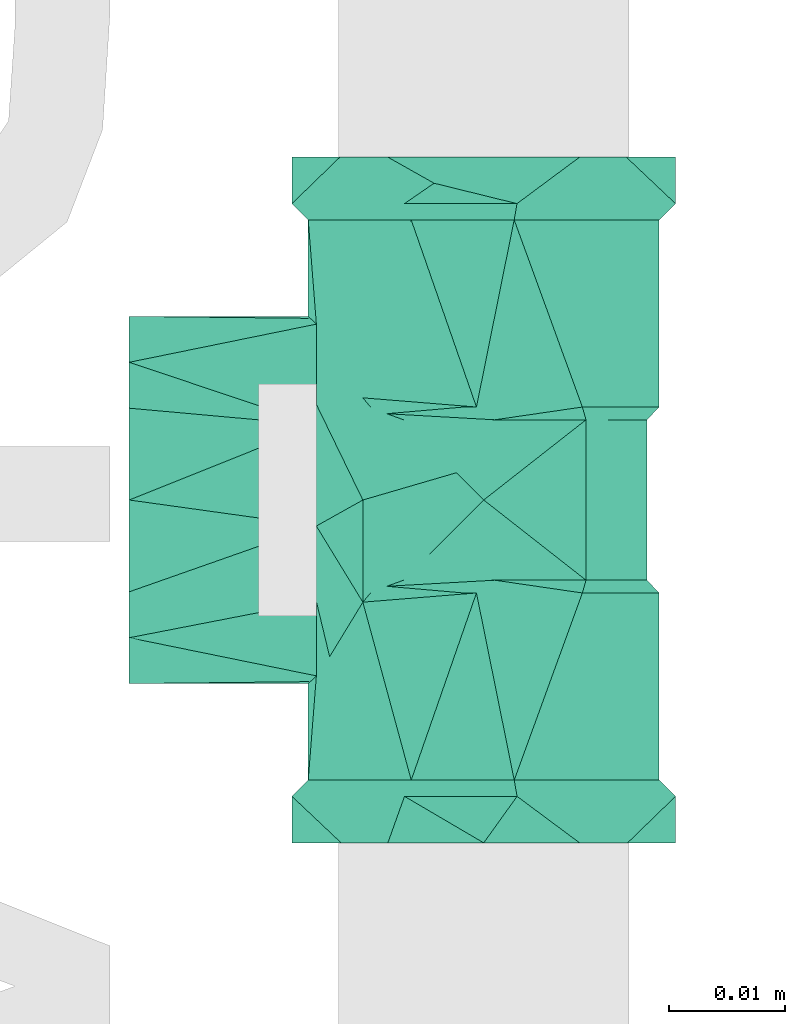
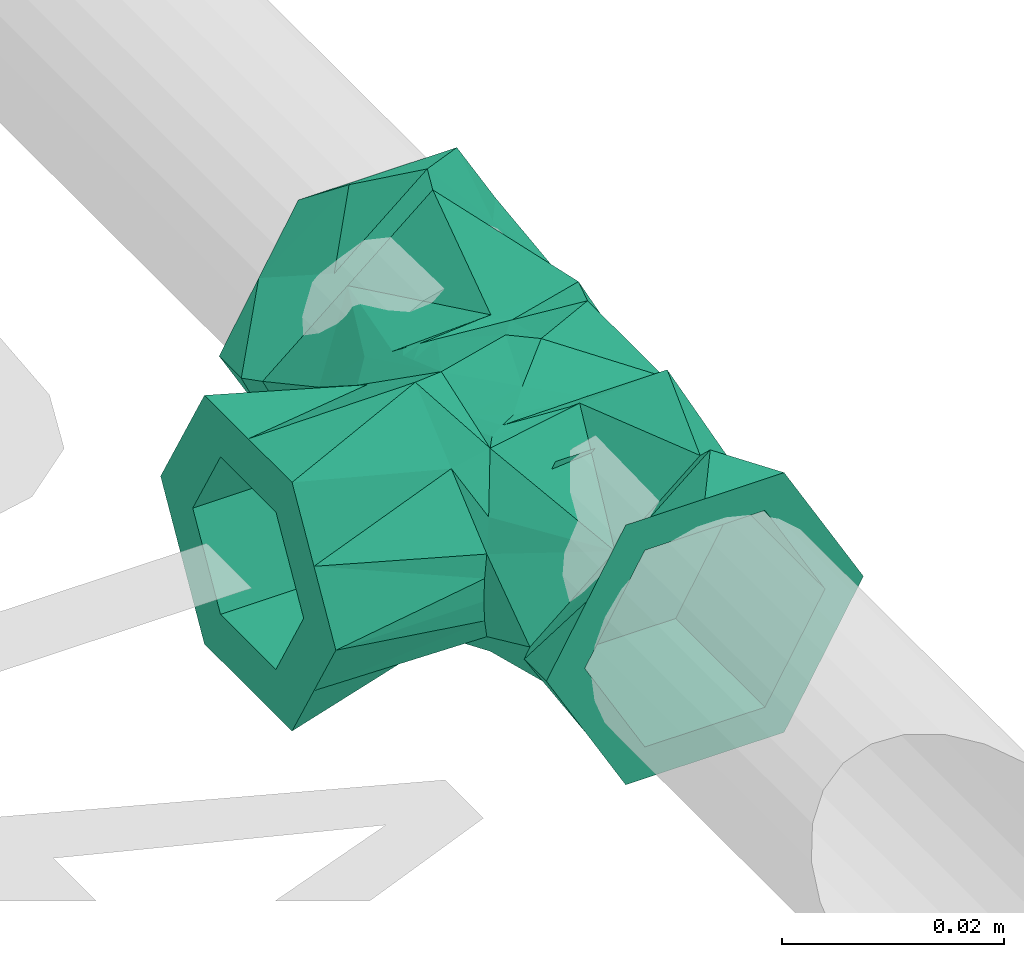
# One storey, part 331 of 589: 1 flow fitting.
"""IFC2X3 building model written with IfcOpenShell, lengths in millimetres."""

from ifc_helpers import new_model, entity, si_unit, converted_unit, derived_unit, direction, frame, origin, place, context, subcontext, project, spatial, faceted_brep, source, transform, mapped, material, type_object, type_shapes, element, save


model = new_model("IFC2X3")

# Units and contexts
model_context = context("Model", 3, precision=0.01, world=origin(), true_north=direction((6.123031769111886e-17, 1.0)))
body_context = subcontext(model_context, "Body", "Model", "MODEL_VIEW")
ifc_project = project(units=[si_unit("LENGTHUNIT", "METRE", prefix="MILLI"), si_unit("AREAUNIT", "SQUARE_METRE"), si_unit("VOLUMEUNIT", "CUBIC_METRE"), converted_unit("PLANEANGLEUNIT", "DEGREE", entity("IfcRatioMeasure", 0.017453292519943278), si_unit("PLANEANGLEUNIT", "RADIAN"), dimensions=[0, 0, 0, 0, 0, 0, 0]), si_unit("MASSUNIT", "GRAM", prefix="KILO"), derived_unit("MASSDENSITYUNIT", [(si_unit("MASSUNIT", "GRAM", prefix="KILO"), 1), (si_unit("LENGTHUNIT", "METRE"), -3)]), derived_unit("IONCONCENTRATIONUNIT", [(si_unit("MASSUNIT", "GRAM", prefix="KILO"), 1), (si_unit("LENGTHUNIT", "METRE"), -3)]), derived_unit("MOMENTOFINERTIAUNIT", [(si_unit("LENGTHUNIT", "METRE"), 4)]), si_unit("TIMEUNIT", "SECOND"), si_unit("FREQUENCYUNIT", "HERTZ"), si_unit("THERMODYNAMICTEMPERATUREUNIT", "DEGREE_CELSIUS"), derived_unit("THERMALTRANSMITTANCEUNIT", [(si_unit("MASSUNIT", "GRAM", prefix="KILO"), 1), (si_unit("THERMODYNAMICTEMPERATUREUNIT", "KELVIN"), -1), (si_unit("TIMEUNIT", "SECOND"), -3)]), derived_unit("THERMALCONDUCTANCEUNIT", [(si_unit("MASSUNIT", "GRAM", prefix="KILO"), 1), (si_unit("THERMODYNAMICTEMPERATUREUNIT", "KELVIN"), -1), (si_unit("TIMEUNIT", "SECOND"), -3), (si_unit("LENGTHUNIT", "METRE"), 1)]), derived_unit("VOLUMETRICFLOWRATEUNIT", [(si_unit("LENGTHUNIT", "METRE"), 3), (si_unit("TIMEUNIT", "SECOND"), -1)]), derived_unit("MASSFLOWRATEUNIT", [(si_unit("MASSUNIT", "GRAM", prefix="KILO"), 1), (si_unit("TIMEUNIT", "SECOND"), -1)]), derived_unit("ROTATIONALFREQUENCYUNIT", [(si_unit("TIMEUNIT", "SECOND"), -1)]), si_unit("ELECTRICCURRENTUNIT", "AMPERE"), si_unit("ELECTRICVOLTAGEUNIT", "VOLT"), si_unit("POWERUNIT", "WATT"), si_unit("FORCEUNIT", "NEWTON", prefix="KILO"), si_unit("ILLUMINANCEUNIT", "LUX"), si_unit("LUMINOUSFLUXUNIT", "LUMEN"), si_unit("LUMINOUSINTENSITYUNIT", "CANDELA"), derived_unit("USERDEFINED", [(si_unit("MASSUNIT", "GRAM", prefix="KILO"), -1), (si_unit("LENGTHUNIT", "METRE"), -2), (si_unit("TIMEUNIT", "SECOND"), 3), (si_unit("LUMINOUSFLUXUNIT", "LUMEN"), 1)]), derived_unit("USERDEFINED", [(si_unit("MASSUNIT", "GRAM", prefix="KILO"), 1), (si_unit("TIMEUNIT", "SECOND"), -3), (si_unit("LENGTHUNIT", "METRE"), 3), (si_unit("ELECTRICCURRENTUNIT", "AMPERE"), -2)]), derived_unit("SOUNDPOWERUNIT", [(si_unit("MASSUNIT", "GRAM", prefix="KILO"), 1), (si_unit("TIMEUNIT", "SECOND"), -3), (si_unit("LENGTHUNIT", "METRE"), 2)]), derived_unit("SOUNDPRESSUREUNIT", [(si_unit("MASSUNIT", "GRAM", prefix="KILO"), 1), (si_unit("LENGTHUNIT", "METRE"), -1), (si_unit("TIMEUNIT", "SECOND"), -2)]), derived_unit("LINEARVELOCITYUNIT", [(si_unit("LENGTHUNIT", "METRE"), 1), (si_unit("TIMEUNIT", "SECOND"), -1)]), si_unit("PRESSUREUNIT", "PASCAL"), derived_unit("USERDEFINED", [(si_unit("MASSUNIT", "GRAM", prefix="KILO"), 1), (si_unit("LENGTHUNIT", "METRE"), -2), (si_unit("TIMEUNIT", "SECOND"), -2)]), derived_unit("LINEARFORCEUNIT", [(si_unit("MASSUNIT", "GRAM", prefix="KILO"), 1), (si_unit("TIMEUNIT", "SECOND"), -2)]), derived_unit("PLANARFORCEUNIT", [(si_unit("MASSUNIT", "GRAM", prefix="KILO"), 1), (si_unit("LENGTHUNIT", "METRE"), -1), (si_unit("TIMEUNIT", "SECOND"), -2)]), derived_unit("SPECIFICHEATCAPACITYUNIT", [(si_unit("THERMODYNAMICTEMPERATUREUNIT", "KELVIN"), -1), (si_unit("LENGTHUNIT", "METRE"), 2), (si_unit("TIMEUNIT", "SECOND"), -2)]), derived_unit("HEATINGVALUEUNIT", [(si_unit("LENGTHUNIT", "METRE"), 2), (si_unit("TIMEUNIT", "SECOND"), -2)]), derived_unit("VAPORPERMEABILITYUNIT", [(si_unit("LENGTHUNIT", "METRE"), -1), (si_unit("TIMEUNIT", "SECOND"), 1)]), derived_unit("DYNAMICVISCOSITYUNIT", [(si_unit("MASSUNIT", "GRAM", prefix="KILO"), 1), (si_unit("TIMEUNIT", "SECOND"), -1), (si_unit("LENGTHUNIT", "METRE"), -1)]), derived_unit("THERMALEXPANSIONCOEFFICIENTUNIT", [(si_unit("THERMODYNAMICTEMPERATUREUNIT", "KELVIN"), -1)]), derived_unit("MODULUSOFELASTICITYUNIT", [(si_unit("MASSUNIT", "GRAM", prefix="KILO"), 1), (si_unit("LENGTHUNIT", "METRE"), -1), (si_unit("TIMEUNIT", "SECOND"), -2)]), derived_unit("ISOTHERMALMOISTURECAPACITYUNIT", [(si_unit("LENGTHUNIT", "METRE"), 3), (si_unit("MASSUNIT", "GRAM", prefix="KILO"), -1)]), derived_unit("MOISTUREDIFFUSIVITYUNIT", [(si_unit("TIMEUNIT", "SECOND"), -1), (si_unit("LENGTHUNIT", "METRE"), 2)])], contexts=[model_context])

# Site, building, storey
site_placement = place(None, origin())
site = spatial("IfcSite", under=ifc_project, at=site_placement, Name="Default", CompositionType="ELEMENT")
building_placement = place(site_placement, origin())
building = spatial("IfcBuilding", under=site, at=building_placement, CompositionType="ELEMENT")
storey_placement = place(building_placement, frame((0.0, 0.0, 100.0)))
storey = spatial("IfcBuildingStorey", under=building, at=storey_placement, Name="TÉRREO", CompositionType="ELEMENT", Elevation=100.0)

# Flow fitting
ifc_material = material(Name="PVC Azul")
pipe_fitting_type = type_object("IfcPipeFittingType", Name="PVC Marrom Soldável_Tê 90° Azul com Bucha de Latão_Rodrigo MEP:Tê_20x1/2''_ 25x1/2''_ 25x3/4''_ 32x3/4''", PredefinedType="NOTDEFINED", material=ifc_material)
shared_shape = source(origin(), body_context, "Body", "Brep", [
    faceted_brep([(-29.500000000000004, -8.250000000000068, -14.28941916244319), (-29.500000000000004, -12.5, 0.0), (-29.500000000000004, -6.250000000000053, -10.825317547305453), (-29.500000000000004, -12.26746212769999, -7.3309706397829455), (-29.500000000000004, 6.249999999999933, -10.825317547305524), (-29.500000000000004, 0.0, -14.289419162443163), (-29.500000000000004, -16.500000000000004, 0.0), (-29.500000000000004, -6.2500000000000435, 10.825317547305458), (-29.500000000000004, -12.375000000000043, 7.144709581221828), (-29.500000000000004, -8.25000000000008, 14.289419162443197), (-29.500000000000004, 6.249999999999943, 10.825317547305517), (-29.500000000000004, 0.0, 14.28941916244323), (-29.500000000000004, 8.249999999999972, 14.289419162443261), (-29.500000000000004, 12.26746212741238, 7.330970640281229), (-29.500000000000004, 16.499999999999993, 0.0), (-29.500000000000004, 12.5, 0.0), (-29.500000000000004, 12.37500000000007, -7.144709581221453), (-29.500000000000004, 8.250000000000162, -14.289419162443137), (-25.499999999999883, 9.6816916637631, 8.124823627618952), (-25.499999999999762, 2.8633833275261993, 16.249647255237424), (-27.25626714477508, -4.271846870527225, 15.937418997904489), (-25.500000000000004, 16.500000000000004, 0.0), (25.499999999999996, 16.500000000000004, 0.0), (29.500000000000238, 12.374999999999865, 7.1447095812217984), (29.500000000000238, 16.500000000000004, 0.0), (-25.500000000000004, -16.500000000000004, 0.0), (25.500000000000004, -16.500000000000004, 0.0), (29.500000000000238, -16.499999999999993, 0.0), (29.500000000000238, -12.267462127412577, 7.330970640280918), (-25.49999999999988, -6.818308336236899, 8.124823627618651), (-25.49999999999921, -9.683729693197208, -8.12446423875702), (-25.499999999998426, -2.8674593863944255, -16.248928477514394), (-27.256354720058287, 4.268848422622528, -15.938222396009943), (29.500000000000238, -12.375000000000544, -7.144709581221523), (29.500000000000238, 12.26746212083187, -7.3309706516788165), (-25.49999999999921, 6.8162703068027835, -8.12446423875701), (-24.100000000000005, -15.1, 0.0), (-24.100000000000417, -6.239785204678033, 7.435444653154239), (-24.100000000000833, 2.620429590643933, 14.870889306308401), (-24.099999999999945, 8.860214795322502, 7.435444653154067), (-24.10000000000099, 10.193333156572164, 5.8468759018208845), (-24.10000000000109, 15.099999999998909, 0.0), (-24.09999999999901, 6.237920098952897, -7.4351157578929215), (-24.09999999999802, -2.624159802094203, -14.870231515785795), (-24.09999999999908, -8.862079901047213, -7.435115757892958), (-24.099999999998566, -10.19391845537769, -5.847667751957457), (-8.0, 8.488967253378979, 12.487891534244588), (-8.0, 11.79448362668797, 6.243945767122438), (-8.0, 15.099999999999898, 0.0), (-11.32196313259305, -11.85902780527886, 9.347377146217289), (-8.790426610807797, -10.399999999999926, 10.947602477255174), (-8.0, -0.6260502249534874, 12.012862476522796), (-15.628969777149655, -14.92094823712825, 2.31847012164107), (-15.799999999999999, -15.100000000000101, 0.0), (-15.132415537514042, -14.399999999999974, 4.544227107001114), (-8.399674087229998, -10.07188784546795, 11.250203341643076), (-8.0, -9.741067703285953, 11.537833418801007), (-8.0, -1.712474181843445, 11.956243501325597), (-15.628969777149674, -14.920948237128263, -2.318470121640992), (-15.132415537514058, -14.4, -4.544227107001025), (-8.0, 4.06303120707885, -14.543100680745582), (-8.0, 9.581515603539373, -7.271550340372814), (-13.483951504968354, -13.258957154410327, -7.225652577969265), (-8.790426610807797, -10.4, -10.947602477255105), (-8.0, -9.741067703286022, -11.537833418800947), (-8.399674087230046, -10.071887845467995, -11.250203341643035), (-8.0, -1.6348361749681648, -13.302627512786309), (8.0, 9.581515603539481, -7.271550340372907), (8.0, 15.1, 0.0), (24.100000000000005, 15.1, 0.0), (-6.8999999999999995, 14.039999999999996, 0.0), (-6.899999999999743, 9.79884528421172, -6.259417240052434), (-6.899999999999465, 5.204835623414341, -13.039604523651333), (-7.423714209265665, -8.338906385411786, -11.916797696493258), (-6.899999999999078, 0.8452357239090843, -12.747119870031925), (-6.899999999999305, -2.954965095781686, -12.492165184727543), (-6.8999999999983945, -6.899999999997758, -12.22749361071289), (-6.900000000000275, 9.622417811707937, -6.519802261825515), (-6.900000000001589, 0.9509910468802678, 11.582903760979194), (-6.900000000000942, 8.801982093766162, 10.938313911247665), (-7.423714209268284, -8.338906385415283, 11.916797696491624), (-6.900000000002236, -6.9000000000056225, 12.227493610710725), (-6.900000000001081, 0.7762284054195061, 11.597252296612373), (-6.900000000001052, 10.687214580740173, 7.001468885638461), (4.660597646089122, -4.660597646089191, 13.243882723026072), (6.900000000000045, -6.900000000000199, 12.227493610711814), (6.900000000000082, -3.061885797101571, 11.912372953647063), (6.90000000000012, 0.7762284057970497, 11.597252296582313), (0.0, 0.0, 14.04), (6.900000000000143, 0.9509910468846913, 11.582903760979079), (6.9000000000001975, 8.801982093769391, 10.938313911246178), (-2.3472692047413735, -2.3472692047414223, 13.842396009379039), (6.9000000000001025, 11.420991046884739, 5.469156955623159), (6.9, 14.039999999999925, 0.0), (6.8999999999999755, 9.719536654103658, -6.3764669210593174), (6.899999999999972, 9.622417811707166, -6.51980226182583), (6.899999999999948, 5.204835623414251, -13.039604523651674), (0.0, 0.0, -14.04), (-4.660597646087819, -4.660597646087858, -13.243882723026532), (6.899999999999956, -6.900000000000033, -12.227493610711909), (2.347269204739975, -2.3472692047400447, -13.842396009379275), (6.899999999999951, 0.9900698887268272, -12.756836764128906), (8.0, 8.488967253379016, 12.487891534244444), (8.0, 11.794483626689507, 6.243945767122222), (8.0, -1.7124740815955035, 11.956243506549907), (8.0, -0.6260502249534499, 12.012862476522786), (7.423714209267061, -8.338906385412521, 11.91679769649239), (8.0, -9.741067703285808, 11.537833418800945), (8.0, -1.6348362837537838, -13.302627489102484), (7.423714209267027, -8.33890638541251, -11.916797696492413), (8.0, 4.0630312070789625, -14.543100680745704), (8.0, -9.741067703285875, -11.537833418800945), (24.100000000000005, -15.1, 0.0), (15.62784391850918, -14.919768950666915, 2.326046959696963), (15.799999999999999, -15.1, 0.0), (15.132415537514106, -14.40000000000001, 4.5442271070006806), (24.100000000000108, 2.6241598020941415, 14.870231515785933), (24.100000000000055, 8.862079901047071, 7.435115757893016), (8.790426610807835, -10.400000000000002, 10.947602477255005), (8.399674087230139, -10.071887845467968, 11.250203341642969), (24.100000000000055, -6.237920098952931, 7.435115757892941), (13.483951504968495, -13.25895715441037, 7.225652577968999), (8.3996740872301, -10.07188784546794, -11.250203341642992), (24.10000000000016, -2.6204295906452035, -14.870889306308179), (8.79042661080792, -10.4, -10.947602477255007), (24.10000000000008, 6.239785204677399, -7.4354446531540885), (15.627843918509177, -14.919768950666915, -2.3260469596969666), (15.132415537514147, -14.4, -4.544227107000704), (11.321963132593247, -11.859027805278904, -9.347377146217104), (24.10000000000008, -8.8602147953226, -7.435444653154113), (25.50000000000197, -2.8633833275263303, -16.249647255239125), (25.500000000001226, -9.681691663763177, -8.124823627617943), (25.500000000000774, -11.138410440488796, -6.3889703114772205), (25.500000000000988, 6.818308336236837, -8.124823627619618), (25.500000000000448, 2.867459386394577, 16.248928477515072), (25.500000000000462, 9.68372969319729, 8.124464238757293), (25.500000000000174, 11.13905000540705, 6.389835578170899), (25.500000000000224, -6.816270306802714, 8.124464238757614), (29.500000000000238, 8.249999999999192, -14.289419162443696), (29.500000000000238, 12.499999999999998, 0.0), (29.500000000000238, 6.250000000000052, -10.825317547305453), (29.500000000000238, -6.249999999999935, -10.825317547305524), (29.500000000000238, 0.0, -14.289419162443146), (29.500000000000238, 6.250000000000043, 10.825317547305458), (29.500000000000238, 8.249999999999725, 14.289419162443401), (29.500000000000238, -6.249999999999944, 10.825317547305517), (29.500000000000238, 0.0, 14.289419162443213), (29.500000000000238, -8.250000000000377, 14.289419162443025), (29.500000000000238, -12.500000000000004, 0.0), (29.500000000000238, -8.250000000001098, -14.289419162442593), (-7.844480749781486, -10.400000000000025, 11.280318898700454), (-6.89853488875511, -10.400000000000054, 11.613035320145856), (-5.006643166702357, -10.400000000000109, 12.27846816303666), (0.0015667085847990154, -10.400000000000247, 14.039999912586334), (-8.317453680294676, -10.400000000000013, 11.113960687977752), (7.844505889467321, -10.400000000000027, 11.280428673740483), (8.317466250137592, -10.400000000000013, 11.11401557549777), (6.898585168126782, -10.400000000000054, 11.613254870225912), (5.006743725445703, -10.400000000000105, 12.27890726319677), (5.006743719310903, -10.400000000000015, -12.27890726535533), (0.0015667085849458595, -10.400000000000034, -14.039999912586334), (7.844505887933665, -10.400000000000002, -11.280428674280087), (6.898585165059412, -10.40000000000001, -11.613254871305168), (8.317466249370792, -10.400000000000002, -11.114015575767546), (-7.844480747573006, -10.400000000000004, -11.280318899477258), (-6.898534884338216, -10.400000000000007, -11.613035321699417), (-5.006643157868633, -10.400000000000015, -12.27846816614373), (-8.317453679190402, -10.400000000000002, -11.113960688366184), (2.239167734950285, -14.400000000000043, 15.640528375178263), (8.724965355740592, -14.400000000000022, 10.05866370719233), (-8.226877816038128, -14.400000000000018, 8.955219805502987), (-6.44662390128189, -14.4, 10.09237774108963), (-2.236923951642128, -14.4, -15.640849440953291), (-8.724658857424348, -14.4, -10.058127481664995), (8.22707275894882, -14.4, -8.955792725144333), (6.447745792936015, -14.4, -10.092538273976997), (7.899999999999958, -30.500000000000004, -13.683201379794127), (10.0, -30.500000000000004, 0.0), (5.0, -30.500000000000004, -8.660254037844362), (11.849999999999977, -30.500000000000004, -6.841600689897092), (-5.0, -30.500000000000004, -8.660254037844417), (0.0, -30.500000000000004, -13.683201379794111), (15.8, -30.500000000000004, 0.0), (5.0, -30.500000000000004, 8.660254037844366), (11.849999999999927, -30.500000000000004, 6.841600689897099), (7.899999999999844, -30.500000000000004, 13.683201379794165), (-5.0, -30.500000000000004, 8.660254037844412), (0.0, -30.500000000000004, 13.683201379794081), (-7.900000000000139, -30.500000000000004, 13.683201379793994), (-11.850000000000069, -30.500000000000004, 6.841600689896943), (-15.8, -30.500000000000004, 0.0), (-10.0, -30.500000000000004, 0.0), (-11.850000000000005, -30.500000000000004, -6.841600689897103), (-7.900000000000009, -30.500000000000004, -13.683201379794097), (-13.400000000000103, -12.5, 0.0), (-13.400000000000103, -6.250000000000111, 10.825317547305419), (-13.400000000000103, 6.2499999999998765, 10.825317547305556), (-13.400000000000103, 12.5, 0.0), (-13.400000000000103, 6.250000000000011, -10.82531754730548), (-13.400000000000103, -6.24999999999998, -10.825317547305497), (13.400000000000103, -12.5, 0.0), (13.400000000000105, -6.249999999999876, 10.825317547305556), (13.400000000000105, 6.250000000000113, 10.825317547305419), (13.400000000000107, 12.5, 0.0), (13.400000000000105, 6.2499999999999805, -10.825317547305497), (13.400000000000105, -6.25000000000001, -10.82531754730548), (10.0, -14.399999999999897, 0.0), (5.0, -14.399999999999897, 8.660254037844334), (-5.0, -14.399999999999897, 8.660254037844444), (-10.0, -14.399999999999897, 0.0), (-5.0, -14.399999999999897, -8.660254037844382), (5.0, -14.399999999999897, -8.660254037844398)], [[[0, 1, 2]], [[1, 0, 3]], [[0, 2, 4]], [[4, 5, 0]], [[1, 3, 6]], [[7, 1, 6]], [[7, 6, 8]], [[7, 8, 9]], [[7, 9, 10]], [[10, 9, 11]], [[10, 11, 12]], [[10, 12, 13]], [[10, 13, 14]], [[14, 15, 10]], [[15, 14, 16]], [[15, 16, 17]], [[17, 4, 15]], [[4, 17, 5]], [[18, 12, 19]], [[12, 20, 19]], [[18, 21, 13]], [[21, 14, 13]], [[22, 23, 24]], [[25, 8, 6]], [[26, 27, 28]], [[20, 8, 29]], [[25, 29, 8]], [[19, 20, 29]], [[20, 12, 11, 9]], [[8, 20, 9]], [[12, 18, 13]], [[30, 0, 31]], [[0, 32, 31]], [[30, 25, 3]], [[25, 6, 3]], [[26, 33, 27]], [[21, 16, 14]], [[22, 24, 34]], [[32, 16, 35]], [[21, 35, 16]], [[31, 32, 35]], [[32, 0, 5, 17]], [[16, 32, 17]], [[0, 30, 3]], [[36, 37, 38, 19, 29, 25]], [[38, 39, 40, 41, 21, 18, 19]], [[41, 42, 43, 31, 35, 21]], [[43, 44, 45, 36, 25, 30, 31]], [[39, 46, 47, 48]], [[49, 50, 37]], [[50, 51, 37]], [[37, 51, 38]], [[51, 46, 38]], [[52, 36, 53]], [[36, 52, 54]], [[48, 41, 40, 39]], [[49, 37, 54]], [[55, 56, 57, 51]], [[51, 50, 55]], [[39, 38, 46]], [[37, 36, 54]], [[36, 58, 53]], [[58, 36, 59]], [[60, 43, 42]], [[61, 60, 42]], [[62, 59, 44]], [[63, 62, 44]], [[59, 36, 45, 44]], [[44, 43, 63]], [[64, 65, 43]], [[43, 65, 63]], [[43, 60, 66, 64]], [[41, 61, 42]], [[61, 41, 48]], [[67, 68, 69]], [[48, 70, 71]], [[61, 72, 60]], [[73, 74, 75, 76]], [[48, 71, 61]], [[66, 60, 74]], [[73, 64, 66]], [[61, 71, 77, 72]], [[73, 66, 74]], [[72, 74, 60]], [[78, 79, 46]], [[80, 81, 82, 78]], [[46, 83, 47]], [[70, 48, 47]], [[80, 78, 57]], [[70, 47, 83]], [[83, 46, 79]], [[80, 57, 56]], [[78, 46, 51, 57]], [[84, 85, 86, 87]], [[88, 87, 89, 90]], [[81, 91, 82]], [[88, 82, 91]], [[79, 90, 92, 93, 70, 83]], [[90, 79, 88]], [[88, 79, 78, 82]], [[88, 84, 87]], [[77, 71, 70, 93, 94, 95, 96, 72]], [[96, 97, 72]], [[98, 76, 75, 74]], [[99, 100, 101]], [[97, 101, 100]], [[74, 72, 97]], [[98, 74, 97]], [[97, 96, 101]], [[90, 102, 103]], [[103, 92, 90]], [[102, 90, 89]], [[93, 92, 68]], [[89, 104, 105, 102]], [[106, 107, 104]], [[68, 92, 103]], [[106, 104, 89]], [[106, 89, 87, 86, 85]], [[101, 108, 109]], [[96, 67, 110]], [[68, 95, 94, 93]], [[68, 67, 95]], [[109, 99, 101]], [[67, 96, 95]], [[108, 111, 109]], [[101, 96, 110]], [[108, 101, 110]], [[112, 113, 114]], [[113, 112, 115]], [[102, 116, 117]], [[118, 105, 119]], [[115, 112, 120]], [[118, 121, 120]], [[115, 120, 121]], [[116, 105, 120]], [[118, 120, 105]], [[69, 68, 117]], [[119, 105, 104, 107]], [[117, 68, 103, 102]], [[116, 102, 105]], [[122, 123, 124]], [[111, 123, 122]], [[125, 110, 67]], [[123, 111, 108, 110]], [[126, 112, 114]], [[112, 126, 127]], [[69, 125, 67]], [[128, 129, 127]], [[124, 123, 128]], [[123, 129, 128]], [[125, 123, 110]], [[129, 112, 127]], [[130, 131, 132, 26, 112, 129, 123]], [[123, 125, 69, 22, 133, 130]], [[134, 135, 136, 22, 69, 117, 116]], [[116, 120, 112, 26, 137, 134]], [[138, 139, 140]], [[139, 138, 34]], [[138, 140, 141]], [[141, 142, 138]], [[139, 34, 24]], [[143, 139, 24]], [[143, 24, 23]], [[143, 23, 144]], [[143, 144, 145]], [[145, 144, 146]], [[145, 146, 147]], [[145, 147, 28]], [[145, 28, 27]], [[27, 148, 145]], [[148, 27, 33]], [[148, 33, 149]], [[149, 141, 148]], [[141, 149, 142]], [[133, 34, 138]], [[133, 22, 34]], [[130, 149, 131]], [[131, 149, 33]], [[33, 26, 132, 131]], [[130, 138, 142, 149]], [[130, 133, 138]], [[137, 28, 147]], [[137, 26, 28]], [[134, 144, 135]], [[135, 144, 23]], [[23, 22, 136, 135]], [[137, 146, 134]], [[134, 146, 144]], [[137, 147, 146]], [[150, 151, 56]], [[81, 152, 153]], [[56, 55, 150]], [[152, 80, 151]], [[55, 50, 154, 150]], [[91, 81, 153]], [[107, 155, 119]], [[152, 81, 80]], [[91, 84, 88]], [[56, 151, 80]], [[156, 118, 119, 155]], [[157, 155, 107]], [[106, 158, 157]], [[153, 158, 84]], [[157, 107, 106]], [[158, 85, 84]], [[106, 85, 158]], [[153, 84, 91]], [[159, 160, 99]], [[122, 161, 111]], [[161, 162, 111]], [[122, 124, 163, 161]], [[109, 111, 162]], [[64, 164, 65]], [[109, 159, 99]], [[100, 99, 160]], [[159, 109, 162]], [[160, 98, 100]], [[165, 64, 73]], [[166, 165, 73]], [[63, 65, 164, 167]], [[165, 164, 64]], [[100, 98, 97]], [[98, 160, 166]], [[166, 76, 98]], [[73, 76, 166]], [[118, 168, 169]], [[49, 54, 170]], [[169, 115, 121]], [[168, 118, 156, 155, 157, 158, 153]], [[49, 153, 152, 151, 150, 154, 50]], [[153, 170, 171, 168]], [[118, 169, 121]], [[170, 153, 49]], [[63, 172, 173]], [[128, 127, 174]], [[173, 59, 62]], [[172, 63, 167, 164, 165, 166, 160]], [[128, 160, 159, 162, 161, 163, 124]], [[160, 174, 175, 172]], [[63, 173, 62]], [[174, 160, 128]], [[176, 177, 178]], [[177, 176, 179]], [[176, 178, 180]], [[180, 181, 176]], [[177, 179, 182]], [[183, 177, 182]], [[183, 182, 184]], [[183, 184, 185]], [[183, 185, 186]], [[186, 185, 187]], [[186, 187, 188]], [[186, 188, 189]], [[186, 189, 190]], [[190, 191, 186]], [[191, 190, 192]], [[191, 192, 193]], [[193, 180, 191]], [[180, 193, 181]], [[52, 190, 189]], [[52, 189, 54]], [[188, 171, 189]], [[190, 52, 53]], [[169, 184, 115]], [[168, 171, 187]], [[182, 113, 184]], [[114, 113, 182]], [[115, 184, 113]], [[189, 171, 170, 54]], [[187, 171, 188]], [[168, 187, 185]], [[184, 169, 185]], [[169, 168, 185]], [[126, 182, 179]], [[126, 179, 127]], [[176, 175, 179]], [[182, 126, 114]], [[173, 192, 59]], [[172, 175, 181]], [[190, 58, 192]], [[53, 58, 190]], [[59, 192, 58]], [[179, 175, 174, 127]], [[181, 175, 176]], [[172, 181, 193]], [[192, 173, 193]], [[173, 172, 193]], [[194, 195, 196, 197, 198, 199]], [[1, 7, 195, 194]], [[145, 148, 200, 201]], [[7, 10, 196, 195]], [[143, 145, 201, 202]], [[10, 15, 197, 196]], [[139, 143, 202, 203]], [[15, 4, 198, 197]], [[140, 139, 203, 204]], [[4, 2, 199, 198]], [[141, 140, 204, 205]], [[2, 1, 194, 199]], [[148, 141, 205, 200]], [[203, 202, 201, 200, 205, 204]], [[206, 207, 208, 209, 210, 211]], [[177, 183, 207, 206]], [[183, 186, 208, 207]], [[186, 191, 209, 208]], [[191, 180, 210, 209]], [[180, 178, 211, 210]], [[178, 177, 206, 211]]]),
])
type_shapes(pipe_fitting_type, [shared_shape])
flow_fitting_placement = place(storey_placement, frame((341.4423921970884, -7406.063258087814, 600.0), z_axis=(0.0, 0.0, 1.0), x_axis=(0.0, -1.0, 0.0)))
element("IfcFlowFitting", 1, at=flow_fitting_placement, inside=storey, type_object=pipe_fitting_type, material=ifc_material, Name="PVC Marrom Soldável_Tê 90° Azul com Bucha de Latão_Rodrigo MEP:Tê_20x1/2''_ 25x1/2''_ 25x3/4''_ 32x3/4''", ObjectType="PVC Marrom Soldável_Tê 90° Azul com Bucha de Latão_Rodrigo MEP:Tê_20x1/2''_ 25x1/2''_ 25x3/4''_ 32x3/4''", context=body_context, shape_type="MappedRepresentation", body=[
    mapped(shared_shape, transform((0.0, 0.0, 0.0), scale=1.0)),
])

save(model, "model.ifc")
